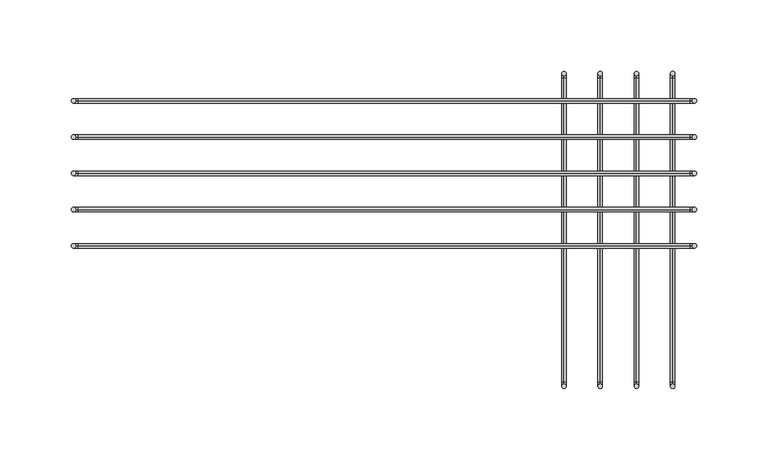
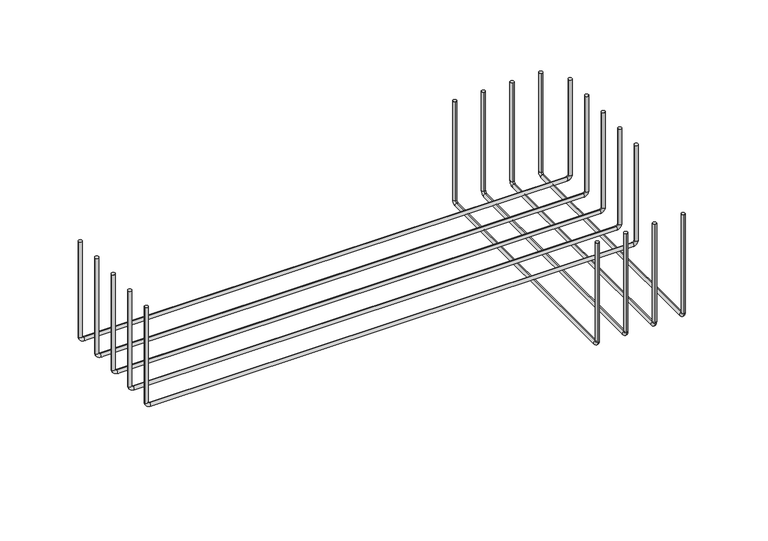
"""IFC4 building model written with IfcOpenShell, lengths in millimetres: furniture geometry."""

from ifc_helpers import new_model, si_unit, point, frame, origin, place, context, project, spatial, circle_curve, ellipse_curve, trimmed, source, transform, mapped, element, save
from ifc_brep_helpers import plane_surface, cylinder_surface, revolved_surface, advanced_brep


def furniture_1b10ca9a(model_context):
    return source(origin(), model_context, "Body", "AdvancedBrep", [
        advanced_brep(
        [(219.075, 49.2851276, 1694.0022), (215.9, 49.2851276, 1694.0022), (-219.075, 49.2851276, 1694.0022), (-215.9, 49.2851276, 1694.0022), (219.075, 49.2851276, 1604.3089034), (215.9, 49.2851276, 1604.3089034), (214.3125, 49.2851276, 1602.7214034), (214.3125, 49.2851276, 1599.5464034), (-214.3125, 49.2851276, 1599.5464034), (-214.3125, 49.2851276, 1602.7214034), (-215.9, 49.2851276, 1604.3089034), (-219.075, 49.2851276, 1604.3089034)],
        [
            (0, 1, circle_curve(frame((217.4875, 49.2851276, 1694.0022), z_axis=(0.0, 0.0, 1.0), x_axis=(0.0, 1.0, 0.0)), 1.5875)),
            (1, 0, circle_curve(frame((217.4875, 49.2851276, 1694.0022), z_axis=(0.0, 0.0, 1.0), x_axis=(0.0, 1.0, 0.0)), 1.5875)),
            (2, 3, circle_curve(frame((-217.4875, 49.2851276, 1694.0022), z_axis=(0.0, 0.0, 1.0), x_axis=(0.0, 1.0, 0.0)), 1.5875)),
            (3, 2, circle_curve(frame((-217.4875, 49.2851276, 1694.0022), z_axis=(0.0, 0.0, 1.0), x_axis=(0.0, 1.0, 0.0)), 1.5875)),
            (0, 4),
            (4, 5, circle_curve(frame((217.4875, 49.2851276, 1604.3089034), z_axis=(0.0, 0.0, 1.0), x_axis=(0.0, 1.0, 0.0)), 1.5875)),
            (5, 1),
            (5, 4, circle_curve(frame((217.4875, 49.2851276, 1604.3089034), z_axis=(0.0, 0.0, 1.0), x_axis=(0.0, 1.0, 0.0)), 1.5875)),
            (6, 7, circle_curve(frame((214.3125, 49.2851276, 1601.1339034), z_axis=(-1.0, 0.0, 0.0), x_axis=(0.0, 1.0, 0.0)), 1.5875)),
            (7, 8),
            (8, 9, circle_curve(frame((-214.3125, 49.2851276, 1601.1339034), z_axis=(1.0, 0.0, 0.0), x_axis=(0.0, 1.0, 0.0)), 1.5875)),
            (9, 6),
            (7, 6, circle_curve(frame((214.3125, 49.2851276, 1601.1339034), z_axis=(-1.0, 0.0, 0.0), x_axis=(0.0, 1.0, 0.0)), 1.5875)),
            (9, 8, circle_curve(frame((-214.3125, 49.2851276, 1601.1339034), z_axis=(1.0, 0.0, 0.0), x_axis=(0.0, 1.0, 0.0)), 1.5875)),
            (10, 11, circle_curve(frame((-217.4875, 49.2851276, 1604.3089034), z_axis=(0.0, 0.0, 1.0), x_axis=(0.0, 1.0, 0.0)), 1.5875)),
            (11, 2),
            (3, 10),
            (11, 10, circle_curve(frame((-217.4875, 49.2851276, 1604.3089034), z_axis=(0.0, 0.0, 1.0), x_axis=(0.0, 1.0, 0.0)), 1.5875)),
            (6, 5, circle_curve(frame((214.3125, 49.2851276, 1604.3089034), z_axis=(0.0, -1.0, 0.0), x_axis=(1.0, 0.0, 0.0)), 1.5875)),
            (4, 7, circle_curve(frame((214.3125, 49.2851276, 1604.3089034), z_axis=(0.0, 1.0, 0.0), x_axis=(1.0, 0.0, 0.0)), 4.7625)),
            (10, 9, circle_curve(frame((-214.3125, 49.2851276, 1604.3089034), z_axis=(0.0, -1.0, 0.0), x_axis=(0.0, 0.0, -1.0)), 1.5875)),
            (8, 11, circle_curve(frame((-214.3125, 49.2851276, 1604.3089034), z_axis=(0.0, 1.0, 0.0), x_axis=(0.0, 0.0, -1.0)), 4.7625)),
        ],
        [
            plane_surface(frame((219.075, 49.2851276, 1694.0022), z_axis=(0.0, 0.0, 1.0), x_axis=(0.0, 1.0, 0.0))),
            plane_surface(frame((-219.075, 49.2851276, 1694.0022), z_axis=(0.0, 0.0, 1.0), x_axis=(0.0, 1.0, 0.0))),
            cylinder_surface(frame((217.4875, 49.2851276, 1694.0022), z_axis=(0.0, 0.0, 1.0), x_axis=(0.0, 1.0, 0.0)), 1.5875),
            cylinder_surface(frame((214.3125, 49.2851276, 1601.1339034), z_axis=(1.0, 0.0, 0.0), x_axis=(0.0, 1.0, 0.0)), 1.5875),
            cylinder_surface(frame((-217.4875, 49.2851276, 1604.3089034), z_axis=(0.0, 0.0, -1.0), x_axis=(0.0, 1.0, 0.0)), 1.5875),
            revolved_surface(trimmed(ellipse_curve(frame((217.4875, 49.2851276, 1604.3089034), z_axis=(0.0, 0.0, 1.0), x_axis=(0.0, 1.0, 0.0)), 1.5875, 1.5875), [point((219.075, 49.2851276, 1604.3089034))], [point((215.9, 49.2851276, 1604.3089034))], True, "CARTESIAN"), (214.3125, 49.2851276, 1604.3089034), (0.0, 1.0, 0.0)),
            revolved_surface(trimmed(ellipse_curve(frame((217.4875, 49.2851276, 1604.3089034), z_axis=(0.0, 0.0, 1.0), x_axis=(0.0, 1.0, 0.0)), 1.5875, 1.5875), [point((215.9, 49.2851276, 1604.3089034))], [point((219.075, 49.2851276, 1604.3089034))], True, "CARTESIAN"), (214.3125, 49.2851276, 1604.3089034), (0.0, 1.0, 0.0)),
            revolved_surface(trimmed(ellipse_curve(frame((-214.3125, 49.2851276, 1601.1339034), z_axis=(1.0, 0.0, 0.0), x_axis=(0.0, 1.0, 0.0)), 1.5875, 1.5875), [point((-214.3125, 49.2851276, 1599.5464034))], [point((-214.3125, 49.2851276, 1602.7214034))], True, "CARTESIAN"), (-214.3125, 49.2851276, 1604.3089034), (0.0, 1.0, 0.0)),
            revolved_surface(trimmed(ellipse_curve(frame((-214.3125, 49.2851276, 1601.1339034), z_axis=(1.0, 0.0, 0.0), x_axis=(0.0, 1.0, 0.0)), 1.5875, 1.5875), [point((-214.3125, 49.2851276, 1602.7214034))], [point((-214.3125, 49.2851276, 1599.5464034))], True, "CARTESIAN"), (-214.3125, 49.2851276, 1604.3089034), (0.0, 1.0, 0.0)),
        ],
        [
            (0, [[1, 2]]),
            (1, [[3, 4]]),
            (2, [[-1, 5, 6, 7]]),
            (2, [[-2, -7, 8, -5]]),
            (3, [[9, 10, 11, 12]]),
            (3, [[13, -12, 14, -10]]),
            (4, [[15, 16, -4, 17]]),
            (4, [[18, -17, -3, -16]]),
            (5, [[19, -6, 20, -9]]),
            (6, [[-20, -8, -19, -13]]),
            (7, [[21, -11, 22, -15]]),
            (8, [[-22, -14, -21, -18]]),
        ],
    ),
        advanced_brep(
        [(219.075, 23.8851276, 1694.0022), (215.9, 23.8851276, 1694.0022), (-219.075, 23.8851276, 1694.0022), (-215.9, 23.8851276, 1694.0022), (219.075, 23.8851276, 1604.3089034), (215.9, 23.8851276, 1604.3089034), (214.3125, 23.8851276, 1602.7214034), (214.3125, 23.8851276, 1599.5464034), (-214.3125, 23.8851276, 1599.5464034), (-214.3125, 23.8851276, 1602.7214034), (-215.9, 23.8851276, 1604.3089034), (-219.075, 23.8851276, 1604.3089034)],
        [
            (0, 1, circle_curve(frame((217.4875, 23.8851276, 1694.0022), z_axis=(0.0, 0.0, 1.0), x_axis=(0.0, 1.0, 0.0)), 1.5875)),
            (1, 0, circle_curve(frame((217.4875, 23.8851276, 1694.0022), z_axis=(0.0, 0.0, 1.0), x_axis=(0.0, 1.0, 0.0)), 1.5875)),
            (2, 3, circle_curve(frame((-217.4875, 23.8851276, 1694.0022), z_axis=(0.0, 0.0, 1.0), x_axis=(0.0, 1.0, 0.0)), 1.5875)),
            (3, 2, circle_curve(frame((-217.4875, 23.8851276, 1694.0022), z_axis=(0.0, 0.0, 1.0), x_axis=(0.0, 1.0, 0.0)), 1.5875)),
            (0, 4),
            (4, 5, circle_curve(frame((217.4875, 23.8851276, 1604.3089034), z_axis=(0.0, 0.0, 1.0), x_axis=(0.0, 1.0, 0.0)), 1.5875)),
            (5, 1),
            (5, 4, circle_curve(frame((217.4875, 23.8851276, 1604.3089034), z_axis=(0.0, 0.0, 1.0), x_axis=(0.0, 1.0, 0.0)), 1.5875)),
            (6, 7, circle_curve(frame((214.3125, 23.8851276, 1601.1339034), z_axis=(-1.0, 0.0, 0.0), x_axis=(0.0, 1.0, 0.0)), 1.5875)),
            (7, 8),
            (8, 9, circle_curve(frame((-214.3125, 23.8851276, 1601.1339034), z_axis=(1.0, 0.0, 0.0), x_axis=(0.0, 1.0, 0.0)), 1.5875)),
            (9, 6),
            (7, 6, circle_curve(frame((214.3125, 23.8851276, 1601.1339034), z_axis=(-1.0, 0.0, 0.0), x_axis=(0.0, 1.0, 0.0)), 1.5875)),
            (9, 8, circle_curve(frame((-214.3125, 23.8851276, 1601.1339034), z_axis=(1.0, 0.0, 0.0), x_axis=(0.0, 1.0, 0.0)), 1.5875)),
            (10, 11, circle_curve(frame((-217.4875, 23.8851276, 1604.3089034), z_axis=(0.0, 0.0, 1.0), x_axis=(0.0, 1.0, 0.0)), 1.5875)),
            (11, 2),
            (3, 10),
            (11, 10, circle_curve(frame((-217.4875, 23.8851276, 1604.3089034), z_axis=(0.0, 0.0, 1.0), x_axis=(0.0, 1.0, 0.0)), 1.5875)),
            (6, 5, circle_curve(frame((214.3125, 23.8851276, 1604.3089034), z_axis=(0.0, -1.0, 0.0), x_axis=(1.0, 0.0, 0.0)), 1.5875)),
            (4, 7, circle_curve(frame((214.3125, 23.8851276, 1604.3089034), z_axis=(0.0, 1.0, 0.0), x_axis=(1.0, 0.0, 0.0)), 4.7625)),
            (10, 9, circle_curve(frame((-214.3125, 23.8851276, 1604.3089034), z_axis=(0.0, -1.0, 0.0), x_axis=(0.0, 0.0, -1.0)), 1.5875)),
            (8, 11, circle_curve(frame((-214.3125, 23.8851276, 1604.3089034), z_axis=(0.0, 1.0, 0.0), x_axis=(0.0, 0.0, -1.0)), 4.7625)),
        ],
        [
            plane_surface(frame((219.075, 23.8851276, 1694.0022), z_axis=(0.0, 0.0, 1.0), x_axis=(0.0, 1.0, 0.0))),
            plane_surface(frame((-219.075, 23.8851276, 1694.0022), z_axis=(0.0, 0.0, 1.0), x_axis=(0.0, 1.0, 0.0))),
            cylinder_surface(frame((217.4875, 23.8851276, 1694.0022), z_axis=(0.0, 0.0, 1.0), x_axis=(0.0, 1.0, 0.0)), 1.5875),
            cylinder_surface(frame((214.3125, 23.8851276, 1601.1339034), z_axis=(1.0, 0.0, 0.0), x_axis=(0.0, 1.0, 0.0)), 1.5875),
            cylinder_surface(frame((-217.4875, 23.8851276, 1604.3089034), z_axis=(0.0, 0.0, -1.0), x_axis=(0.0, 1.0, 0.0)), 1.5875),
            revolved_surface(trimmed(ellipse_curve(frame((217.4875, 23.8851276, 1604.3089034), z_axis=(0.0, 0.0, 1.0), x_axis=(0.0, 1.0, 0.0)), 1.5875, 1.5875), [point((219.075, 23.8851276, 1604.3089034))], [point((215.9, 23.8851276, 1604.3089034))], True, "CARTESIAN"), (214.3125, 23.8851276, 1604.3089034), (0.0, 1.0, 0.0)),
            revolved_surface(trimmed(ellipse_curve(frame((217.4875, 23.8851276, 1604.3089034), z_axis=(0.0, 0.0, 1.0), x_axis=(0.0, 1.0, 0.0)), 1.5875, 1.5875), [point((215.9, 23.8851276, 1604.3089034))], [point((219.075, 23.8851276, 1604.3089034))], True, "CARTESIAN"), (214.3125, 23.8851276, 1604.3089034), (0.0, 1.0, 0.0)),
            revolved_surface(trimmed(ellipse_curve(frame((-214.3125, 23.8851276, 1601.1339034), z_axis=(1.0, 0.0, 0.0), x_axis=(0.0, 1.0, 0.0)), 1.5875, 1.5875), [point((-214.3125, 23.8851276, 1599.5464034))], [point((-214.3125, 23.8851276, 1602.7214034))], True, "CARTESIAN"), (-214.3125, 23.8851276, 1604.3089034), (0.0, 1.0, 0.0)),
            revolved_surface(trimmed(ellipse_curve(frame((-214.3125, 23.8851276, 1601.1339034), z_axis=(1.0, 0.0, 0.0), x_axis=(0.0, 1.0, 0.0)), 1.5875, 1.5875), [point((-214.3125, 23.8851276, 1602.7214034))], [point((-214.3125, 23.8851276, 1599.5464034))], True, "CARTESIAN"), (-214.3125, 23.8851276, 1604.3089034), (0.0, 1.0, 0.0)),
        ],
        [
            (0, [[1, 2]]),
            (1, [[3, 4]]),
            (2, [[-1, 5, 6, 7]]),
            (2, [[-2, -7, 8, -5]]),
            (3, [[9, 10, 11, 12]]),
            (3, [[13, -12, 14, -10]]),
            (4, [[15, 16, -4, 17]]),
            (4, [[18, -17, -3, -16]]),
            (5, [[19, -6, 20, -9]]),
            (6, [[-20, -8, -19, -13]]),
            (7, [[21, -11, 22, -15]]),
            (8, [[-22, -14, -21, -18]]),
        ],
    ),
        advanced_brep(
        [(219.075, -1.5148724, 1694.0022), (215.9, -1.5148724, 1694.0022), (-219.075, -1.5148724, 1694.0022), (-215.9, -1.5148724, 1694.0022), (219.075, -1.5148724, 1604.3089034), (215.9, -1.5148724, 1604.3089034), (214.3125, -1.5148724, 1602.7214034), (214.3125, -1.5148724, 1599.5464034), (-214.3125, -1.5148724, 1599.5464034), (-214.3125, -1.5148724, 1602.7214034), (-215.9, -1.5148724, 1604.3089034), (-219.075, -1.5148724, 1604.3089034)],
        [
            (0, 1, circle_curve(frame((217.4875, -1.5148724, 1694.0022), z_axis=(0.0, 0.0, 1.0), x_axis=(0.0, 1.0, 0.0)), 1.5875)),
            (1, 0, circle_curve(frame((217.4875, -1.5148724, 1694.0022), z_axis=(0.0, 0.0, 1.0), x_axis=(0.0, 1.0, 0.0)), 1.5875)),
            (2, 3, circle_curve(frame((-217.4875, -1.5148724, 1694.0022), z_axis=(0.0, 0.0, 1.0), x_axis=(0.0, 1.0, 0.0)), 1.5875)),
            (3, 2, circle_curve(frame((-217.4875, -1.5148724, 1694.0022), z_axis=(0.0, 0.0, 1.0), x_axis=(0.0, 1.0, 0.0)), 1.5875)),
            (0, 4),
            (4, 5, circle_curve(frame((217.4875, -1.5148724, 1604.3089034), z_axis=(0.0, 0.0, 1.0), x_axis=(0.0, 1.0, 0.0)), 1.5875)),
            (5, 1),
            (5, 4, circle_curve(frame((217.4875, -1.5148724, 1604.3089034), z_axis=(0.0, 0.0, 1.0), x_axis=(0.0, 1.0, 0.0)), 1.5875)),
            (6, 7, circle_curve(frame((214.3125, -1.5148724, 1601.1339034), z_axis=(-1.0, 0.0, 0.0), x_axis=(0.0, 1.0, 0.0)), 1.5875)),
            (7, 8),
            (8, 9, circle_curve(frame((-214.3125, -1.5148724, 1601.1339034), z_axis=(1.0, 0.0, 0.0), x_axis=(0.0, 1.0, 0.0)), 1.5875)),
            (9, 6),
            (7, 6, circle_curve(frame((214.3125, -1.5148724, 1601.1339034), z_axis=(-1.0, 0.0, 0.0), x_axis=(0.0, 1.0, 0.0)), 1.5875)),
            (9, 8, circle_curve(frame((-214.3125, -1.5148724, 1601.1339034), z_axis=(1.0, 0.0, 0.0), x_axis=(0.0, 1.0, 0.0)), 1.5875)),
            (10, 11, circle_curve(frame((-217.4875, -1.5148724, 1604.3089034), z_axis=(0.0, 0.0, 1.0), x_axis=(0.0, 1.0, 0.0)), 1.5875)),
            (11, 2),
            (3, 10),
            (11, 10, circle_curve(frame((-217.4875, -1.5148724, 1604.3089034), z_axis=(0.0, 0.0, 1.0), x_axis=(0.0, 1.0, 0.0)), 1.5875)),
            (6, 5, circle_curve(frame((214.3125, -1.5148724, 1604.3089034), z_axis=(0.0, -1.0, 0.0), x_axis=(1.0, 0.0, 0.0)), 1.5875)),
            (4, 7, circle_curve(frame((214.3125, -1.5148724, 1604.3089034), z_axis=(0.0, 1.0, 0.0), x_axis=(1.0, 0.0, 0.0)), 4.7625)),
            (10, 9, circle_curve(frame((-214.3125, -1.5148724, 1604.3089034), z_axis=(0.0, -1.0, 0.0), x_axis=(0.0, 0.0, -1.0)), 1.5875)),
            (8, 11, circle_curve(frame((-214.3125, -1.5148724, 1604.3089034), z_axis=(0.0, 1.0, 0.0), x_axis=(0.0, 0.0, -1.0)), 4.7625)),
        ],
        [
            plane_surface(frame((219.075, -1.5148724, 1694.0022), z_axis=(0.0, 0.0, 1.0), x_axis=(0.0, 1.0, 0.0))),
            plane_surface(frame((-219.075, -1.5148724, 1694.0022), z_axis=(0.0, 0.0, 1.0), x_axis=(0.0, 1.0, 0.0))),
            cylinder_surface(frame((217.4875, -1.5148724, 1694.0022), z_axis=(0.0, 0.0, 1.0), x_axis=(0.0, 1.0, 0.0)), 1.5875),
            cylinder_surface(frame((214.3125, -1.5148724, 1601.1339034), z_axis=(1.0, 0.0, 0.0), x_axis=(0.0, 1.0, 0.0)), 1.5875),
            cylinder_surface(frame((-217.4875, -1.5148724, 1604.3089034), z_axis=(0.0, 0.0, -1.0), x_axis=(0.0, 1.0, 0.0)), 1.5875),
            revolved_surface(trimmed(ellipse_curve(frame((217.4875, -1.5148724, 1604.3089034), z_axis=(0.0, 0.0, 1.0), x_axis=(0.0, 1.0, 0.0)), 1.5875, 1.5875), [point((219.075, -1.5148724, 1604.3089034))], [point((215.9, -1.5148724, 1604.3089034))], True, "CARTESIAN"), (214.3125, -1.5148724, 1604.3089034), (0.0, 1.0, 0.0)),
            revolved_surface(trimmed(ellipse_curve(frame((217.4875, -1.5148724, 1604.3089034), z_axis=(0.0, 0.0, 1.0), x_axis=(0.0, 1.0, 0.0)), 1.5875, 1.5875), [point((215.9, -1.5148724, 1604.3089034))], [point((219.075, -1.5148724, 1604.3089034))], True, "CARTESIAN"), (214.3125, -1.5148724, 1604.3089034), (0.0, 1.0, 0.0)),
            revolved_surface(trimmed(ellipse_curve(frame((-214.3125, -1.5148724, 1601.1339034), z_axis=(1.0, 0.0, 0.0), x_axis=(0.0, 1.0, 0.0)), 1.5875, 1.5875), [point((-214.3125, -1.5148724, 1599.5464034))], [point((-214.3125, -1.5148724, 1602.7214034))], True, "CARTESIAN"), (-214.3125, -1.5148724, 1604.3089034), (0.0, 1.0, 0.0)),
            revolved_surface(trimmed(ellipse_curve(frame((-214.3125, -1.5148724, 1601.1339034), z_axis=(1.0, 0.0, 0.0), x_axis=(0.0, 1.0, 0.0)), 1.5875, 1.5875), [point((-214.3125, -1.5148724, 1602.7214034))], [point((-214.3125, -1.5148724, 1599.5464034))], True, "CARTESIAN"), (-214.3125, -1.5148724, 1604.3089034), (0.0, 1.0, 0.0)),
        ],
        [
            (0, [[1, 2]]),
            (1, [[3, 4]]),
            (2, [[-1, 5, 6, 7]]),
            (2, [[-2, -7, 8, -5]]),
            (3, [[9, 10, 11, 12]]),
            (3, [[13, -12, 14, -10]]),
            (4, [[15, 16, -4, 17]]),
            (4, [[18, -17, -3, -16]]),
            (5, [[19, -6, 20, -9]]),
            (6, [[-20, -8, -19, -13]]),
            (7, [[21, -11, 22, -15]]),
            (8, [[-22, -14, -21, -18]]),
        ],
    ),
        advanced_brep(
        [(219.075, -26.9148724, 1694.0022), (215.9, -26.9148724, 1694.0022), (-219.075, -26.9148724, 1694.0022), (-215.9, -26.9148724, 1694.0022), (219.075, -26.9148724, 1604.3089034), (215.9, -26.9148724, 1604.3089034), (214.3125, -26.9148724, 1602.7214034), (214.3125, -26.9148724, 1599.5464034), (-214.3125, -26.9148724, 1599.5464034), (-214.3125, -26.9148724, 1602.7214034), (-215.9, -26.9148724, 1604.3089034), (-219.075, -26.9148724, 1604.3089034)],
        [
            (0, 1, circle_curve(frame((217.4875, -26.9148724, 1694.0022), z_axis=(0.0, 0.0, 1.0), x_axis=(0.0, 1.0, 0.0)), 1.5875)),
            (1, 0, circle_curve(frame((217.4875, -26.9148724, 1694.0022), z_axis=(0.0, 0.0, 1.0), x_axis=(0.0, 1.0, 0.0)), 1.5875)),
            (2, 3, circle_curve(frame((-217.4875, -26.9148724, 1694.0022), z_axis=(0.0, 0.0, 1.0), x_axis=(0.0, 1.0, 0.0)), 1.5875)),
            (3, 2, circle_curve(frame((-217.4875, -26.9148724, 1694.0022), z_axis=(0.0, 0.0, 1.0), x_axis=(0.0, 1.0, 0.0)), 1.5875)),
            (0, 4),
            (4, 5, circle_curve(frame((217.4875, -26.9148724, 1604.3089034), z_axis=(0.0, 0.0, 1.0), x_axis=(0.0, 1.0, 0.0)), 1.5875)),
            (5, 1),
            (5, 4, circle_curve(frame((217.4875, -26.9148724, 1604.3089034), z_axis=(0.0, 0.0, 1.0), x_axis=(0.0, 1.0, 0.0)), 1.5875)),
            (6, 7, circle_curve(frame((214.3125, -26.9148724, 1601.1339034), z_axis=(-1.0, 0.0, 0.0), x_axis=(0.0, 1.0, 0.0)), 1.5875)),
            (7, 8),
            (8, 9, circle_curve(frame((-214.3125, -26.9148724, 1601.1339034), z_axis=(1.0, 0.0, 0.0), x_axis=(0.0, 1.0, 0.0)), 1.5875)),
            (9, 6),
            (7, 6, circle_curve(frame((214.3125, -26.9148724, 1601.1339034), z_axis=(-1.0, 0.0, 0.0), x_axis=(0.0, 1.0, 0.0)), 1.5875)),
            (9, 8, circle_curve(frame((-214.3125, -26.9148724, 1601.1339034), z_axis=(1.0, 0.0, 0.0), x_axis=(0.0, 1.0, 0.0)), 1.5875)),
            (10, 11, circle_curve(frame((-217.4875, -26.9148724, 1604.3089034), z_axis=(0.0, 0.0, 1.0), x_axis=(0.0, 1.0, 0.0)), 1.5875)),
            (11, 2),
            (3, 10),
            (11, 10, circle_curve(frame((-217.4875, -26.9148724, 1604.3089034), z_axis=(0.0, 0.0, 1.0), x_axis=(0.0, 1.0, 0.0)), 1.5875)),
            (6, 5, circle_curve(frame((214.3125, -26.9148724, 1604.3089034), z_axis=(0.0, -1.0, 0.0), x_axis=(1.0, 0.0, 0.0)), 1.5875)),
            (4, 7, circle_curve(frame((214.3125, -26.9148724, 1604.3089034), z_axis=(0.0, 1.0, 0.0), x_axis=(1.0, 0.0, 0.0)), 4.7625)),
            (10, 9, circle_curve(frame((-214.3125, -26.9148724, 1604.3089034), z_axis=(0.0, -1.0, 0.0), x_axis=(0.0, 0.0, -1.0)), 1.5875)),
            (8, 11, circle_curve(frame((-214.3125, -26.9148724, 1604.3089034), z_axis=(0.0, 1.0, 0.0), x_axis=(0.0, 0.0, -1.0)), 4.7625)),
        ],
        [
            plane_surface(frame((219.075, -26.9148724, 1694.0022), z_axis=(0.0, 0.0, 1.0), x_axis=(0.0, 1.0, 0.0))),
            plane_surface(frame((-219.075, -26.9148724, 1694.0022), z_axis=(0.0, 0.0, 1.0), x_axis=(0.0, 1.0, 0.0))),
            cylinder_surface(frame((217.4875, -26.9148724, 1694.0022), z_axis=(0.0, 0.0, 1.0), x_axis=(0.0, 1.0, 0.0)), 1.5875),
            cylinder_surface(frame((214.3125, -26.9148724, 1601.1339034), z_axis=(1.0, 0.0, 0.0), x_axis=(0.0, 1.0, 0.0)), 1.5875),
            cylinder_surface(frame((-217.4875, -26.9148724, 1604.3089034), z_axis=(0.0, 0.0, -1.0), x_axis=(0.0, 1.0, 0.0)), 1.5875),
            revolved_surface(trimmed(ellipse_curve(frame((217.4875, -26.9148724, 1604.3089034), z_axis=(0.0, 0.0, 1.0), x_axis=(0.0, 1.0, 0.0)), 1.5875, 1.5875), [point((219.075, -26.9148724, 1604.3089034))], [point((215.9, -26.9148724, 1604.3089034))], True, "CARTESIAN"), (214.3125, -26.9148724, 1604.3089034), (0.0, 1.0, 0.0)),
            revolved_surface(trimmed(ellipse_curve(frame((217.4875, -26.9148724, 1604.3089034), z_axis=(0.0, 0.0, 1.0), x_axis=(0.0, 1.0, 0.0)), 1.5875, 1.5875), [point((215.9, -26.9148724, 1604.3089034))], [point((219.075, -26.9148724, 1604.3089034))], True, "CARTESIAN"), (214.3125, -26.9148724, 1604.3089034), (0.0, 1.0, 0.0)),
            revolved_surface(trimmed(ellipse_curve(frame((-214.3125, -26.9148724, 1601.1339034), z_axis=(1.0, 0.0, 0.0), x_axis=(0.0, 1.0, 0.0)), 1.5875, 1.5875), [point((-214.3125, -26.9148724, 1599.5464034))], [point((-214.3125, -26.9148724, 1602.7214034))], True, "CARTESIAN"), (-214.3125, -26.9148724, 1604.3089034), (0.0, 1.0, 0.0)),
            revolved_surface(trimmed(ellipse_curve(frame((-214.3125, -26.9148724, 1601.1339034), z_axis=(1.0, 0.0, 0.0), x_axis=(0.0, 1.0, 0.0)), 1.5875, 1.5875), [point((-214.3125, -26.9148724, 1602.7214034))], [point((-214.3125, -26.9148724, 1599.5464034))], True, "CARTESIAN"), (-214.3125, -26.9148724, 1604.3089034), (0.0, 1.0, 0.0)),
        ],
        [
            (0, [[1, 2]]),
            (1, [[3, 4]]),
            (2, [[-1, 5, 6, 7]]),
            (2, [[-2, -7, 8, -5]]),
            (3, [[9, 10, 11, 12]]),
            (3, [[13, -12, 14, -10]]),
            (4, [[15, 16, -4, 17]]),
            (4, [[18, -17, -3, -16]]),
            (5, [[19, -6, 20, -9]]),
            (6, [[-20, -8, -19, -13]]),
            (7, [[21, -11, 22, -15]]),
            (8, [[-22, -14, -21, -18]]),
        ],
    ),
        advanced_brep(
        [(219.075, -52.3148724, 1694.0022), (215.9, -52.3148724, 1694.0022), (-219.075, -52.3148724, 1694.0022), (-215.9, -52.3148724, 1694.0022), (219.075, -52.3148724, 1604.3089034), (215.9, -52.3148724, 1604.3089034), (214.3125, -52.3148724, 1602.7214034), (214.3125, -52.3148724, 1599.5464034), (-214.3125, -52.3148724, 1599.5464034), (-214.3125, -52.3148724, 1602.7214034), (-215.9, -52.3148724, 1604.3089034), (-219.075, -52.3148724, 1604.3089034)],
        [
            (0, 1, circle_curve(frame((217.4875, -52.3148724, 1694.0022), z_axis=(0.0, 0.0, 1.0), x_axis=(0.0, 1.0, 0.0)), 1.5875)),
            (1, 0, circle_curve(frame((217.4875, -52.3148724, 1694.0022), z_axis=(0.0, 0.0, 1.0), x_axis=(0.0, 1.0, 0.0)), 1.5875)),
            (2, 3, circle_curve(frame((-217.4875, -52.3148724, 1694.0022), z_axis=(0.0, 0.0, 1.0), x_axis=(0.0, 1.0, 0.0)), 1.5875)),
            (3, 2, circle_curve(frame((-217.4875, -52.3148724, 1694.0022), z_axis=(0.0, 0.0, 1.0), x_axis=(0.0, 1.0, 0.0)), 1.5875)),
            (0, 4),
            (4, 5, circle_curve(frame((217.4875, -52.3148724, 1604.3089034), z_axis=(0.0, 0.0, 1.0), x_axis=(0.0, 1.0, 0.0)), 1.5875)),
            (5, 1),
            (5, 4, circle_curve(frame((217.4875, -52.3148724, 1604.3089034), z_axis=(0.0, 0.0, 1.0), x_axis=(0.0, 1.0, 0.0)), 1.5875)),
            (6, 7, circle_curve(frame((214.3125, -52.3148724, 1601.1339034), z_axis=(-1.0, 0.0, 0.0), x_axis=(0.0, 1.0, 0.0)), 1.5875)),
            (7, 8),
            (8, 9, circle_curve(frame((-214.3125, -52.3148724, 1601.1339034), z_axis=(1.0, 0.0, 0.0), x_axis=(0.0, 1.0, 0.0)), 1.5875)),
            (9, 6),
            (7, 6, circle_curve(frame((214.3125, -52.3148724, 1601.1339034), z_axis=(-1.0, 0.0, 0.0), x_axis=(0.0, 1.0, 0.0)), 1.5875)),
            (9, 8, circle_curve(frame((-214.3125, -52.3148724, 1601.1339034), z_axis=(1.0, 0.0, 0.0), x_axis=(0.0, 1.0, 0.0)), 1.5875)),
            (10, 11, circle_curve(frame((-217.4875, -52.3148724, 1604.3089034), z_axis=(0.0, 0.0, 1.0), x_axis=(0.0, 1.0, 0.0)), 1.5875)),
            (11, 2),
            (3, 10),
            (11, 10, circle_curve(frame((-217.4875, -52.3148724, 1604.3089034), z_axis=(0.0, 0.0, 1.0), x_axis=(0.0, 1.0, 0.0)), 1.5875)),
            (6, 5, circle_curve(frame((214.3125, -52.3148724, 1604.3089034), z_axis=(0.0, -1.0, 0.0), x_axis=(1.0, 0.0, 0.0)), 1.5875)),
            (4, 7, circle_curve(frame((214.3125, -52.3148724, 1604.3089034), z_axis=(0.0, 1.0, 0.0), x_axis=(1.0, 0.0, 0.0)), 4.7625)),
            (10, 9, circle_curve(frame((-214.3125, -52.3148724, 1604.3089034), z_axis=(0.0, -1.0, 0.0), x_axis=(0.0, 0.0, -1.0)), 1.5875)),
            (8, 11, circle_curve(frame((-214.3125, -52.3148724, 1604.3089034), z_axis=(0.0, 1.0, 0.0), x_axis=(0.0, 0.0, -1.0)), 4.7625)),
        ],
        [
            plane_surface(frame((219.075, -52.3148724, 1694.0022), z_axis=(0.0, 0.0, 1.0), x_axis=(0.0, 1.0, 0.0))),
            plane_surface(frame((-219.075, -52.3148724, 1694.0022), z_axis=(0.0, 0.0, 1.0), x_axis=(0.0, 1.0, 0.0))),
            cylinder_surface(frame((217.4875, -52.3148724, 1694.0022), z_axis=(0.0, 0.0, 1.0), x_axis=(0.0, 1.0, 0.0)), 1.5875),
            cylinder_surface(frame((214.3125, -52.3148724, 1601.1339034), z_axis=(1.0, 0.0, 0.0), x_axis=(0.0, 1.0, 0.0)), 1.5875),
            cylinder_surface(frame((-217.4875, -52.3148724, 1604.3089034), z_axis=(0.0, 0.0, -1.0), x_axis=(0.0, 1.0, 0.0)), 1.5875),
            revolved_surface(trimmed(ellipse_curve(frame((217.4875, -52.3148724, 1604.3089034), z_axis=(0.0, 0.0, 1.0), x_axis=(0.0, 1.0, 0.0)), 1.5875, 1.5875), [point((219.075, -52.3148724, 1604.3089034))], [point((215.9, -52.3148724, 1604.3089034))], True, "CARTESIAN"), (214.3125, -52.3148724, 1604.3089034), (0.0, 1.0, 0.0)),
            revolved_surface(trimmed(ellipse_curve(frame((217.4875, -52.3148724, 1604.3089034), z_axis=(0.0, 0.0, 1.0), x_axis=(0.0, 1.0, 0.0)), 1.5875, 1.5875), [point((215.9, -52.3148724, 1604.3089034))], [point((219.075, -52.3148724, 1604.3089034))], True, "CARTESIAN"), (214.3125, -52.3148724, 1604.3089034), (0.0, 1.0, 0.0)),
            revolved_surface(trimmed(ellipse_curve(frame((-214.3125, -52.3148724, 1601.1339034), z_axis=(1.0, 0.0, 0.0), x_axis=(0.0, 1.0, 0.0)), 1.5875, 1.5875), [point((-214.3125, -52.3148724, 1599.5464034))], [point((-214.3125, -52.3148724, 1602.7214034))], True, "CARTESIAN"), (-214.3125, -52.3148724, 1604.3089034), (0.0, 1.0, 0.0)),
            revolved_surface(trimmed(ellipse_curve(frame((-214.3125, -52.3148724, 1601.1339034), z_axis=(1.0, 0.0, 0.0), x_axis=(0.0, 1.0, 0.0)), 1.5875, 1.5875), [point((-214.3125, -52.3148724, 1602.7214034))], [point((-214.3125, -52.3148724, 1599.5464034))], True, "CARTESIAN"), (-214.3125, -52.3148724, 1604.3089034), (0.0, 1.0, 0.0)),
        ],
        [
            (0, [[1, 2]]),
            (1, [[3, 4]]),
            (2, [[-1, 5, 6, 7]]),
            (2, [[-2, -7, 8, -5]]),
            (3, [[9, 10, 11, 12]]),
            (3, [[13, -12, 14, -10]]),
            (4, [[15, 16, -4, 17]]),
            (4, [[18, -17, -3, -16]]),
            (5, [[19, -6, 20, -9]]),
            (6, [[-20, -8, -19, -13]]),
            (7, [[21, -11, 22, -15]]),
            (8, [[-22, -14, -21, -18]]),
        ],
    ),
        advanced_brep(
        [(202.31608, -152.3273724, 1694.0022), (202.31608, -149.1523724, 1694.0022), (202.31608, 69.9226276, 1694.0022), (202.31608, 66.7476276, 1694.0022), (202.31608, -152.3273724, 1601.1339034), (202.31608, -149.1523724, 1601.1339034), (202.31608, -147.5648724, 1599.5464034), (202.31608, -147.5648724, 1596.3714034), (202.31608, 65.1601276, 1596.3714034), (202.31608, 65.1601276, 1599.5464034), (202.31608, 66.7476276, 1601.1339034), (202.31608, 69.9226276, 1601.1339034)],
        [
            (0, 1, circle_curve(frame((202.31608, -150.7398724, 1694.0022), z_axis=(0.0, 0.0, 1.0), x_axis=(1.0, 0.0, 0.0)), 1.5875)),
            (1, 0, circle_curve(frame((202.31608, -150.7398724, 1694.0022), z_axis=(0.0, 0.0, 1.0), x_axis=(1.0, 0.0, 0.0)), 1.5875)),
            (2, 3, circle_curve(frame((202.31608, 68.3351276, 1694.0022), z_axis=(0.0, 0.0, 1.0), x_axis=(1.0, 0.0, 0.0)), 1.5875)),
            (3, 2, circle_curve(frame((202.31608, 68.3351276, 1694.0022), z_axis=(0.0, 0.0, 1.0), x_axis=(1.0, 0.0, 0.0)), 1.5875)),
            (0, 4),
            (4, 5, circle_curve(frame((202.31608, -150.7398724, 1601.1339034), z_axis=(0.0, 0.0, 1.0), x_axis=(1.0, 0.0, 0.0)), 1.5875)),
            (5, 1),
            (5, 4, circle_curve(frame((202.31608, -150.7398724, 1601.1339034), z_axis=(0.0, 0.0, 1.0), x_axis=(1.0, 0.0, 0.0)), 1.5875)),
            (6, 7, circle_curve(frame((202.31608, -147.5648724, 1597.9589034), z_axis=(0.0, 1.0, 0.0), x_axis=(1.0, 0.0, 0.0)), 1.5875)),
            (7, 8),
            (8, 9, circle_curve(frame((202.31608, 65.1601276, 1597.9589034), z_axis=(0.0, -1.0, 0.0), x_axis=(1.0, 0.0, 0.0)), 1.5875)),
            (9, 6),
            (7, 6, circle_curve(frame((202.31608, -147.5648724, 1597.9589034), z_axis=(0.0, 1.0, 0.0), x_axis=(1.0, 0.0, 0.0)), 1.5875)),
            (9, 8, circle_curve(frame((202.31608, 65.1601276, 1597.9589034), z_axis=(0.0, -1.0, 0.0), x_axis=(1.0, 0.0, 0.0)), 1.5875)),
            (10, 11, circle_curve(frame((202.31608, 68.3351276, 1601.1339034), z_axis=(0.0, 0.0, 1.0), x_axis=(1.0, 0.0, 0.0)), 1.5875)),
            (11, 2),
            (3, 10),
            (11, 10, circle_curve(frame((202.31608, 68.3351276, 1601.1339034), z_axis=(0.0, 0.0, 1.0), x_axis=(1.0, 0.0, 0.0)), 1.5875)),
            (6, 5, circle_curve(frame((202.31608, -147.5648724, 1601.1339034), z_axis=(-1.0, 0.0, 0.0), x_axis=(0.0, -1.0, 0.0)), 1.5875)),
            (4, 7, circle_curve(frame((202.31608, -147.5648724, 1601.1339034), z_axis=(1.0, 0.0, 0.0), x_axis=(0.0, -1.0, 0.0)), 4.7625)),
            (10, 9, circle_curve(frame((202.31608, 65.1601276, 1601.1339034), z_axis=(-1.0, 0.0, 0.0), x_axis=(0.0, 0.0, -1.0)), 1.5875)),
            (8, 11, circle_curve(frame((202.31608, 65.1601276, 1601.1339034), z_axis=(1.0, 0.0, 0.0), x_axis=(0.0, 0.0, -1.0)), 4.7625)),
        ],
        [
            plane_surface(frame((202.31608, -152.3273724, 1694.0022), z_axis=(0.0, 0.0, 1.0), x_axis=(1.0, 0.0, 0.0))),
            plane_surface(frame((202.31608, 69.9226276, 1694.0022), z_axis=(0.0, 0.0, 1.0), x_axis=(1.0, 0.0, 0.0))),
            cylinder_surface(frame((202.31608, -150.7398724, 1694.0022), z_axis=(0.0, 0.0, 1.0), x_axis=(1.0, 0.0, 0.0)), 1.5875),
            cylinder_surface(frame((202.31608, -147.5648724, 1597.9589034), z_axis=(0.0, -1.0, 0.0), x_axis=(1.0, 0.0, 0.0)), 1.5875),
            cylinder_surface(frame((202.31608, 68.3351276, 1601.1339034), z_axis=(0.0, 0.0, -1.0), x_axis=(1.0, 0.0, 0.0)), 1.5875),
            revolved_surface(trimmed(ellipse_curve(frame((202.31608, -150.7398724, 1601.1339034), z_axis=(0.0, 0.0, 1.0), x_axis=(1.0, 0.0, 0.0)), 1.5875, 1.5875), [point((202.31608, -152.3273724, 1601.1339034))], [point((202.31608, -149.1523724, 1601.1339034))], True, "CARTESIAN"), (202.31608, -147.5648724, 1601.1339034), (1.0, 0.0, 0.0)),
            revolved_surface(trimmed(ellipse_curve(frame((202.31608, -150.7398724, 1601.1339034), z_axis=(0.0, 0.0, 1.0), x_axis=(1.0, 0.0, 0.0)), 1.5875, 1.5875), [point((202.31608, -149.1523724, 1601.1339034))], [point((202.31608, -152.3273724, 1601.1339034))], True, "CARTESIAN"), (202.31608, -147.5648724, 1601.1339034), (1.0, 0.0, 0.0)),
            revolved_surface(trimmed(ellipse_curve(frame((202.31608, 65.1601276, 1597.9589034), z_axis=(0.0, -1.0, 0.0), x_axis=(1.0, 0.0, 0.0)), 1.5875, 1.5875), [point((202.31608, 65.1601276, 1596.3714034))], [point((202.31608, 65.1601276, 1599.5464034))], True, "CARTESIAN"), (202.31608, 65.1601276, 1601.1339034), (1.0, 0.0, 0.0)),
            revolved_surface(trimmed(ellipse_curve(frame((202.31608, 65.1601276, 1597.9589034), z_axis=(0.0, -1.0, 0.0), x_axis=(1.0, 0.0, 0.0)), 1.5875, 1.5875), [point((202.31608, 65.1601276, 1599.5464034))], [point((202.31608, 65.1601276, 1596.3714034))], True, "CARTESIAN"), (202.31608, 65.1601276, 1601.1339034), (1.0, 0.0, 0.0)),
        ],
        [
            (0, [[1, 2]]),
            (1, [[3, 4]]),
            (2, [[-1, 5, 6, 7]]),
            (2, [[-2, -7, 8, -5]]),
            (3, [[9, 10, 11, 12]]),
            (3, [[13, -12, 14, -10]]),
            (4, [[15, 16, -4, 17]]),
            (4, [[18, -17, -3, -16]]),
            (5, [[19, -6, 20, -9]]),
            (6, [[-20, -8, -19, -13]]),
            (7, [[21, -11, 22, -15]]),
            (8, [[-22, -14, -21, -18]]),
        ],
    ),
        advanced_brep(
        [(176.91608, -152.3273724, 1694.0022), (176.91608, -149.1523724, 1694.0022), (176.91608, 69.9226276, 1694.0022), (176.91608, 66.7476276, 1694.0022), (176.91608, -152.3273724, 1601.1339034), (176.91608, -149.1523724, 1601.1339034), (176.91608, -147.5648724, 1599.5464034), (176.91608, -147.5648724, 1596.3714034), (176.91608, 65.1601276, 1596.3714034), (176.91608, 65.1601276, 1599.5464034), (176.91608, 66.7476276, 1601.1339034), (176.91608, 69.9226276, 1601.1339034)],
        [
            (0, 1, circle_curve(frame((176.91608, -150.7398724, 1694.0022), z_axis=(0.0, 0.0, 1.0), x_axis=(1.0, 0.0, 0.0)), 1.5875)),
            (1, 0, circle_curve(frame((176.91608, -150.7398724, 1694.0022), z_axis=(0.0, 0.0, 1.0), x_axis=(1.0, 0.0, 0.0)), 1.5875)),
            (2, 3, circle_curve(frame((176.91608, 68.3351276, 1694.0022), z_axis=(0.0, 0.0, 1.0), x_axis=(1.0, 0.0, 0.0)), 1.5875)),
            (3, 2, circle_curve(frame((176.91608, 68.3351276, 1694.0022), z_axis=(0.0, 0.0, 1.0), x_axis=(1.0, 0.0, 0.0)), 1.5875)),
            (0, 4),
            (4, 5, circle_curve(frame((176.91608, -150.7398724, 1601.1339034), z_axis=(0.0, 0.0, 1.0), x_axis=(1.0, 0.0, 0.0)), 1.5875)),
            (5, 1),
            (5, 4, circle_curve(frame((176.91608, -150.7398724, 1601.1339034), z_axis=(0.0, 0.0, 1.0), x_axis=(1.0, 0.0, 0.0)), 1.5875)),
            (6, 7, circle_curve(frame((176.91608, -147.5648724, 1597.9589034), z_axis=(0.0, 1.0, 0.0), x_axis=(1.0, 0.0, 0.0)), 1.5875)),
            (7, 8),
            (8, 9, circle_curve(frame((176.91608, 65.1601276, 1597.9589034), z_axis=(0.0, -1.0, 0.0), x_axis=(1.0, 0.0, 0.0)), 1.5875)),
            (9, 6),
            (7, 6, circle_curve(frame((176.91608, -147.5648724, 1597.9589034), z_axis=(0.0, 1.0, 0.0), x_axis=(1.0, 0.0, 0.0)), 1.5875)),
            (9, 8, circle_curve(frame((176.91608, 65.1601276, 1597.9589034), z_axis=(0.0, -1.0, 0.0), x_axis=(1.0, 0.0, 0.0)), 1.5875)),
            (10, 11, circle_curve(frame((176.91608, 68.3351276, 1601.1339034), z_axis=(0.0, 0.0, 1.0), x_axis=(1.0, 0.0, 0.0)), 1.5875)),
            (11, 2),
            (3, 10),
            (11, 10, circle_curve(frame((176.91608, 68.3351276, 1601.1339034), z_axis=(0.0, 0.0, 1.0), x_axis=(1.0, 0.0, 0.0)), 1.5875)),
            (6, 5, circle_curve(frame((176.91608, -147.5648724, 1601.1339034), z_axis=(-1.0, 0.0, 0.0), x_axis=(0.0, -1.0, 0.0)), 1.5875)),
            (4, 7, circle_curve(frame((176.91608, -147.5648724, 1601.1339034), z_axis=(1.0, 0.0, 0.0), x_axis=(0.0, -1.0, 0.0)), 4.7625)),
            (10, 9, circle_curve(frame((176.91608, 65.1601276, 1601.1339034), z_axis=(-1.0, 0.0, 0.0), x_axis=(0.0, 0.0, -1.0)), 1.5875)),
            (8, 11, circle_curve(frame((176.91608, 65.1601276, 1601.1339034), z_axis=(1.0, 0.0, 0.0), x_axis=(0.0, 0.0, -1.0)), 4.7625)),
        ],
        [
            plane_surface(frame((176.91608, -152.3273724, 1694.0022), z_axis=(0.0, 0.0, 1.0), x_axis=(1.0, 0.0, 0.0))),
            plane_surface(frame((176.91608, 69.9226276, 1694.0022), z_axis=(0.0, 0.0, 1.0), x_axis=(1.0, 0.0, 0.0))),
            cylinder_surface(frame((176.91608, -150.7398724, 1694.0022), z_axis=(0.0, 0.0, 1.0), x_axis=(1.0, 0.0, 0.0)), 1.5875),
            cylinder_surface(frame((176.91608, -147.5648724, 1597.9589034), z_axis=(0.0, -1.0, 0.0), x_axis=(1.0, 0.0, 0.0)), 1.5875),
            cylinder_surface(frame((176.91608, 68.3351276, 1601.1339034), z_axis=(0.0, 0.0, -1.0), x_axis=(1.0, 0.0, 0.0)), 1.5875),
            revolved_surface(trimmed(ellipse_curve(frame((176.91608, -150.7398724, 1601.1339034), z_axis=(0.0, 0.0, 1.0), x_axis=(1.0, 0.0, 0.0)), 1.5875, 1.5875), [point((176.91608, -152.3273724, 1601.1339034))], [point((176.91608, -149.1523724, 1601.1339034))], True, "CARTESIAN"), (176.91608, -147.5648724, 1601.1339034), (1.0, 0.0, 0.0)),
            revolved_surface(trimmed(ellipse_curve(frame((176.91608, -150.7398724, 1601.1339034), z_axis=(0.0, 0.0, 1.0), x_axis=(1.0, 0.0, 0.0)), 1.5875, 1.5875), [point((176.91608, -149.1523724, 1601.1339034))], [point((176.91608, -152.3273724, 1601.1339034))], True, "CARTESIAN"), (176.91608, -147.5648724, 1601.1339034), (1.0, 0.0, 0.0)),
            revolved_surface(trimmed(ellipse_curve(frame((176.91608, 65.1601276, 1597.9589034), z_axis=(0.0, -1.0, 0.0), x_axis=(1.0, 0.0, 0.0)), 1.5875, 1.5875), [point((176.91608, 65.1601276, 1596.3714034))], [point((176.91608, 65.1601276, 1599.5464034))], True, "CARTESIAN"), (176.91608, 65.1601276, 1601.1339034), (1.0, 0.0, 0.0)),
            revolved_surface(trimmed(ellipse_curve(frame((176.91608, 65.1601276, 1597.9589034), z_axis=(0.0, -1.0, 0.0), x_axis=(1.0, 0.0, 0.0)), 1.5875, 1.5875), [point((176.91608, 65.1601276, 1599.5464034))], [point((176.91608, 65.1601276, 1596.3714034))], True, "CARTESIAN"), (176.91608, 65.1601276, 1601.1339034), (1.0, 0.0, 0.0)),
        ],
        [
            (0, [[1, 2]]),
            (1, [[3, 4]]),
            (2, [[-1, 5, 6, 7]]),
            (2, [[-2, -7, 8, -5]]),
            (3, [[9, 10, 11, 12]]),
            (3, [[13, -12, 14, -10]]),
            (4, [[15, 16, -4, 17]]),
            (4, [[18, -17, -3, -16]]),
            (5, [[19, -6, 20, -9]]),
            (6, [[-20, -8, -19, -13]]),
            (7, [[21, -11, 22, -15]]),
            (8, [[-22, -14, -21, -18]]),
        ],
    ),
        advanced_brep(
        [(151.51608, -152.3273724, 1694.0022), (151.51608, -149.1523724, 1694.0022), (151.51608, 69.9226276, 1694.0022), (151.51608, 66.7476276, 1694.0022), (151.51608, -152.3273724, 1601.1339034), (151.51608, -149.1523724, 1601.1339034), (151.51608, -147.5648724, 1599.5464034), (151.51608, -147.5648724, 1596.3714034), (151.51608, 65.1601276, 1596.3714034), (151.51608, 65.1601276, 1599.5464034), (151.51608, 66.7476276, 1601.1339034), (151.51608, 69.9226276, 1601.1339034)],
        [
            (0, 1, circle_curve(frame((151.51608, -150.7398724, 1694.0022), z_axis=(0.0, 0.0, 1.0), x_axis=(1.0, 0.0, 0.0)), 1.5875)),
            (1, 0, circle_curve(frame((151.51608, -150.7398724, 1694.0022), z_axis=(0.0, 0.0, 1.0), x_axis=(1.0, 0.0, 0.0)), 1.5875)),
            (2, 3, circle_curve(frame((151.51608, 68.3351276, 1694.0022), z_axis=(0.0, 0.0, 1.0), x_axis=(1.0, 0.0, 0.0)), 1.5875)),
            (3, 2, circle_curve(frame((151.51608, 68.3351276, 1694.0022), z_axis=(0.0, 0.0, 1.0), x_axis=(1.0, 0.0, 0.0)), 1.5875)),
            (0, 4),
            (4, 5, circle_curve(frame((151.51608, -150.7398724, 1601.1339034), z_axis=(0.0, 0.0, 1.0), x_axis=(1.0, 0.0, 0.0)), 1.5875)),
            (5, 1),
            (5, 4, circle_curve(frame((151.51608, -150.7398724, 1601.1339034), z_axis=(0.0, 0.0, 1.0), x_axis=(1.0, 0.0, 0.0)), 1.5875)),
            (6, 7, circle_curve(frame((151.51608, -147.5648724, 1597.9589034), z_axis=(0.0, 1.0, 0.0), x_axis=(1.0, 0.0, 0.0)), 1.5875)),
            (7, 8),
            (8, 9, circle_curve(frame((151.51608, 65.1601276, 1597.9589034), z_axis=(0.0, -1.0, 0.0), x_axis=(1.0, 0.0, 0.0)), 1.5875)),
            (9, 6),
            (7, 6, circle_curve(frame((151.51608, -147.5648724, 1597.9589034), z_axis=(0.0, 1.0, 0.0), x_axis=(1.0, 0.0, 0.0)), 1.5875)),
            (9, 8, circle_curve(frame((151.51608, 65.1601276, 1597.9589034), z_axis=(0.0, -1.0, 0.0), x_axis=(1.0, 0.0, 0.0)), 1.5875)),
            (10, 11, circle_curve(frame((151.51608, 68.3351276, 1601.1339034), z_axis=(0.0, 0.0, 1.0), x_axis=(1.0, 0.0, 0.0)), 1.5875)),
            (11, 2),
            (3, 10),
            (11, 10, circle_curve(frame((151.51608, 68.3351276, 1601.1339034), z_axis=(0.0, 0.0, 1.0), x_axis=(1.0, 0.0, 0.0)), 1.5875)),
            (6, 5, circle_curve(frame((151.51608, -147.5648724, 1601.1339034), z_axis=(-1.0, 0.0, 0.0), x_axis=(0.0, -1.0, 0.0)), 1.5875)),
            (4, 7, circle_curve(frame((151.51608, -147.5648724, 1601.1339034), z_axis=(1.0, 0.0, 0.0), x_axis=(0.0, -1.0, 0.0)), 4.7625)),
            (10, 9, circle_curve(frame((151.51608, 65.1601276, 1601.1339034), z_axis=(-1.0, 0.0, 0.0), x_axis=(0.0, 0.0, -1.0)), 1.5875)),
            (8, 11, circle_curve(frame((151.51608, 65.1601276, 1601.1339034), z_axis=(1.0, 0.0, 0.0), x_axis=(0.0, 0.0, -1.0)), 4.7625)),
        ],
        [
            plane_surface(frame((151.51608, -152.3273724, 1694.0022), z_axis=(0.0, 0.0, 1.0), x_axis=(1.0, 0.0, 0.0))),
            plane_surface(frame((151.51608, 69.9226276, 1694.0022), z_axis=(0.0, 0.0, 1.0), x_axis=(1.0, 0.0, 0.0))),
            cylinder_surface(frame((151.51608, -150.7398724, 1694.0022), z_axis=(0.0, 0.0, 1.0), x_axis=(1.0, 0.0, 0.0)), 1.5875),
            cylinder_surface(frame((151.51608, -147.5648724, 1597.9589034), z_axis=(0.0, -1.0, 0.0), x_axis=(1.0, 0.0, 0.0)), 1.5875),
            cylinder_surface(frame((151.51608, 68.3351276, 1601.1339034), z_axis=(0.0, 0.0, -1.0), x_axis=(1.0, 0.0, 0.0)), 1.5875),
            revolved_surface(trimmed(ellipse_curve(frame((151.51608, -150.7398724, 1601.1339034), z_axis=(0.0, 0.0, 1.0), x_axis=(1.0, 0.0, 0.0)), 1.5875, 1.5875), [point((151.51608, -152.3273724, 1601.1339034))], [point((151.51608, -149.1523724, 1601.1339034))], True, "CARTESIAN"), (151.51608, -147.5648724, 1601.1339034), (1.0, 0.0, 0.0)),
            revolved_surface(trimmed(ellipse_curve(frame((151.51608, -150.7398724, 1601.1339034), z_axis=(0.0, 0.0, 1.0), x_axis=(1.0, 0.0, 0.0)), 1.5875, 1.5875), [point((151.51608, -149.1523724, 1601.1339034))], [point((151.51608, -152.3273724, 1601.1339034))], True, "CARTESIAN"), (151.51608, -147.5648724, 1601.1339034), (1.0, 0.0, 0.0)),
            revolved_surface(trimmed(ellipse_curve(frame((151.51608, 65.1601276, 1597.9589034), z_axis=(0.0, -1.0, 0.0), x_axis=(1.0, 0.0, 0.0)), 1.5875, 1.5875), [point((151.51608, 65.1601276, 1596.3714034))], [point((151.51608, 65.1601276, 1599.5464034))], True, "CARTESIAN"), (151.51608, 65.1601276, 1601.1339034), (1.0, 0.0, 0.0)),
            revolved_surface(trimmed(ellipse_curve(frame((151.51608, 65.1601276, 1597.9589034), z_axis=(0.0, -1.0, 0.0), x_axis=(1.0, 0.0, 0.0)), 1.5875, 1.5875), [point((151.51608, 65.1601276, 1599.5464034))], [point((151.51608, 65.1601276, 1596.3714034))], True, "CARTESIAN"), (151.51608, 65.1601276, 1601.1339034), (1.0, 0.0, 0.0)),
        ],
        [
            (0, [[1, 2]]),
            (1, [[3, 4]]),
            (2, [[-1, 5, 6, 7]]),
            (2, [[-2, -7, 8, -5]]),
            (3, [[9, 10, 11, 12]]),
            (3, [[13, -12, 14, -10]]),
            (4, [[15, 16, -4, 17]]),
            (4, [[18, -17, -3, -16]]),
            (5, [[19, -6, 20, -9]]),
            (6, [[-20, -8, -19, -13]]),
            (7, [[21, -11, 22, -15]]),
            (8, [[-22, -14, -21, -18]]),
        ],
    ),
        advanced_brep(
        [(126.11608, -152.3273724, 1694.0022), (126.11608, -149.1523724, 1694.0022), (126.11608, 69.9226276, 1694.0022), (126.11608, 66.7476276, 1694.0022), (126.11608, -152.3273724, 1601.1339034), (126.11608, -149.1523724, 1601.1339034), (126.11608, -147.5648724, 1599.5464034), (126.11608, -147.5648724, 1596.3714034), (126.11608, 65.1601276, 1596.3714034), (126.11608, 65.1601276, 1599.5464034), (126.11608, 66.7476276, 1601.1339034), (126.11608, 69.9226276, 1601.1339034)],
        [
            (0, 1, circle_curve(frame((126.11608, -150.7398724, 1694.0022), z_axis=(0.0, 0.0, 1.0), x_axis=(1.0, 0.0, 0.0)), 1.5875)),
            (1, 0, circle_curve(frame((126.11608, -150.7398724, 1694.0022), z_axis=(0.0, 0.0, 1.0), x_axis=(1.0, 0.0, 0.0)), 1.5875)),
            (2, 3, circle_curve(frame((126.11608, 68.3351276, 1694.0022), z_axis=(0.0, 0.0, 1.0), x_axis=(1.0, 0.0, 0.0)), 1.5875)),
            (3, 2, circle_curve(frame((126.11608, 68.3351276, 1694.0022), z_axis=(0.0, 0.0, 1.0), x_axis=(1.0, 0.0, 0.0)), 1.5875)),
            (0, 4),
            (4, 5, circle_curve(frame((126.11608, -150.7398724, 1601.1339034), z_axis=(0.0, 0.0, 1.0), x_axis=(1.0, 0.0, 0.0)), 1.5875)),
            (5, 1),
            (5, 4, circle_curve(frame((126.11608, -150.7398724, 1601.1339034), z_axis=(0.0, 0.0, 1.0), x_axis=(1.0, 0.0, 0.0)), 1.5875)),
            (6, 7, circle_curve(frame((126.11608, -147.5648724, 1597.9589034), z_axis=(0.0, 1.0, 0.0), x_axis=(1.0, 0.0, 0.0)), 1.5875)),
            (7, 8),
            (8, 9, circle_curve(frame((126.11608, 65.1601276, 1597.9589034), z_axis=(0.0, -1.0, 0.0), x_axis=(1.0, 0.0, 0.0)), 1.5875)),
            (9, 6),
            (7, 6, circle_curve(frame((126.11608, -147.5648724, 1597.9589034), z_axis=(0.0, 1.0, 0.0), x_axis=(1.0, 0.0, 0.0)), 1.5875)),
            (9, 8, circle_curve(frame((126.11608, 65.1601276, 1597.9589034), z_axis=(0.0, -1.0, 0.0), x_axis=(1.0, 0.0, 0.0)), 1.5875)),
            (10, 11, circle_curve(frame((126.11608, 68.3351276, 1601.1339034), z_axis=(0.0, 0.0, 1.0), x_axis=(1.0, 0.0, 0.0)), 1.5875)),
            (11, 2),
            (3, 10),
            (11, 10, circle_curve(frame((126.11608, 68.3351276, 1601.1339034), z_axis=(0.0, 0.0, 1.0), x_axis=(1.0, 0.0, 0.0)), 1.5875)),
            (6, 5, circle_curve(frame((126.11608, -147.5648724, 1601.1339034), z_axis=(-1.0, 0.0, 0.0), x_axis=(0.0, -1.0, 0.0)), 1.5875)),
            (4, 7, circle_curve(frame((126.11608, -147.5648724, 1601.1339034), z_axis=(1.0, 0.0, 0.0), x_axis=(0.0, -1.0, 0.0)), 4.7625)),
            (10, 9, circle_curve(frame((126.11608, 65.1601276, 1601.1339034), z_axis=(-1.0, 0.0, 0.0), x_axis=(0.0, 0.0, -1.0)), 1.5875)),
            (8, 11, circle_curve(frame((126.11608, 65.1601276, 1601.1339034), z_axis=(1.0, 0.0, 0.0), x_axis=(0.0, 0.0, -1.0)), 4.7625)),
        ],
        [
            plane_surface(frame((126.11608, -152.3273724, 1694.0022), z_axis=(0.0, 0.0, 1.0), x_axis=(1.0, 0.0, 0.0))),
            plane_surface(frame((126.11608, 69.9226276, 1694.0022), z_axis=(0.0, 0.0, 1.0), x_axis=(1.0, 0.0, 0.0))),
            cylinder_surface(frame((126.11608, -150.7398724, 1694.0022), z_axis=(0.0, 0.0, 1.0), x_axis=(1.0, 0.0, 0.0)), 1.5875),
            cylinder_surface(frame((126.11608, -147.5648724, 1597.9589034), z_axis=(0.0, -1.0, 0.0), x_axis=(1.0, 0.0, 0.0)), 1.5875),
            cylinder_surface(frame((126.11608, 68.3351276, 1601.1339034), z_axis=(0.0, 0.0, -1.0), x_axis=(1.0, 0.0, 0.0)), 1.5875),
            revolved_surface(trimmed(ellipse_curve(frame((126.11608, -150.7398724, 1601.1339034), z_axis=(0.0, 0.0, 1.0), x_axis=(1.0, 0.0, 0.0)), 1.5875, 1.5875), [point((126.11608, -152.3273724, 1601.1339034))], [point((126.11608, -149.1523724, 1601.1339034))], True, "CARTESIAN"), (126.11608, -147.5648724, 1601.1339034), (1.0, 0.0, 0.0)),
            revolved_surface(trimmed(ellipse_curve(frame((126.11608, -150.7398724, 1601.1339034), z_axis=(0.0, 0.0, 1.0), x_axis=(1.0, 0.0, 0.0)), 1.5875, 1.5875), [point((126.11608, -149.1523724, 1601.1339034))], [point((126.11608, -152.3273724, 1601.1339034))], True, "CARTESIAN"), (126.11608, -147.5648724, 1601.1339034), (1.0, 0.0, 0.0)),
            revolved_surface(trimmed(ellipse_curve(frame((126.11608, 65.1601276, 1597.9589034), z_axis=(0.0, -1.0, 0.0), x_axis=(1.0, 0.0, 0.0)), 1.5875, 1.5875), [point((126.11608, 65.1601276, 1596.3714034))], [point((126.11608, 65.1601276, 1599.5464034))], True, "CARTESIAN"), (126.11608, 65.1601276, 1601.1339034), (1.0, 0.0, 0.0)),
            revolved_surface(trimmed(ellipse_curve(frame((126.11608, 65.1601276, 1597.9589034), z_axis=(0.0, -1.0, 0.0), x_axis=(1.0, 0.0, 0.0)), 1.5875, 1.5875), [point((126.11608, 65.1601276, 1599.5464034))], [point((126.11608, 65.1601276, 1596.3714034))], True, "CARTESIAN"), (126.11608, 65.1601276, 1601.1339034), (1.0, 0.0, 0.0)),
        ],
        [
            (0, [[1, 2]]),
            (1, [[3, 4]]),
            (2, [[-1, 5, 6, 7]]),
            (2, [[-2, -7, 8, -5]]),
            (3, [[9, 10, 11, 12]]),
            (3, [[13, -12, 14, -10]]),
            (4, [[15, 16, -4, 17]]),
            (4, [[18, -17, -3, -16]]),
            (5, [[19, -6, 20, -9]]),
            (6, [[-20, -8, -19, -13]]),
            (7, [[21, -11, 22, -15]]),
            (8, [[-22, -14, -21, -18]]),
        ],
    ),
    ])


if __name__ == "__main__":
    model = new_model("IFC4")
    model_context = context("Model", 3, world=origin())
    ifc_project = project(units=[si_unit("LENGTHUNIT", "METRE", prefix="MILLI")], contexts=[model_context])
    site = spatial("IfcSite", under=ifc_project)
    building = spatial("IfcBuilding", under=site)
    placement = place(None, origin())
    furniture_shape = furniture_1b10ca9a(model_context)
    element("IfcFurniture", 1, ObjectType="HermanMiller_Carts_CT720_SupplyBasket : 5\"H x 9\"D x 18\"W Supply Basket", at=placement, inside=building, context=model_context, shape_type="MappedRepresentation", body=[
        mapped(furniture_shape, transform((0.0, 0.0, 0.0), x_axis=(1.0, 0.0, 0.0), y_axis=(0.0, 1.0, 0.0), z_axis=(0.0, 0.0, 1.0))),
    ])
    save(model, "model.ifc")
